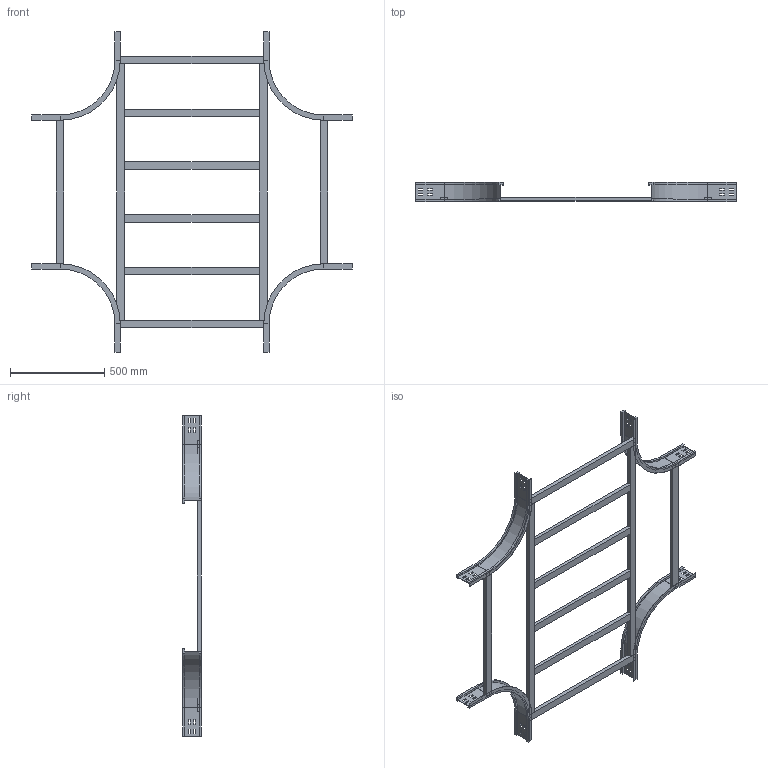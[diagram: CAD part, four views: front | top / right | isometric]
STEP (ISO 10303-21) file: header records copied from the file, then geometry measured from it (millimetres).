
FILE_DESCRIPTION (( 'STEP AP214' ), '1' );
FILE_NAME ('17S3D800.step', '2025-02-21T16:16:13', ( '' ), ( '' ), 'SwSTEP 2.0', 'SolidWorks 2023', '' );
FILE_SCHEMA (( 'AUTOMOTIVE_DESIGN' ));
Length unit declared in the file: millimetre
Products named in the file (5): TRAVERSINO_INTERMEDIO_X_R300+800; LONGH.INTERNO 90°_H100_R300; TRAVERSINO_LONG._R300+800; TRAVERSINO_800; 17S3D800
Assembly tree (14 placements, depth 2):
  17S3D800
    LONGH.INTERNO 90°_H100_R300  x4
    TRAVERSINO_800  x4
    TRAVERSINO_INTERMEDIO_X_R300+800  x4
    TRAVERSINO_LONG._R300+800  x2
Bounding box: 1700 x 100 x 1700 mm (x, y, z)
Volume: 8732084.2 mm3; surface area: 1989744.2 mm2
Topology: 14 solids, 14 shells, 340 faces, 840 edges, 528 vertices
Faces by surface type: plane 316, cylinder 24
Entity records: 2786 total; most frequent: CARTESIAN_POINT 457, DIRECTION 438, ORIENTED_EDGE 432, EDGE_CURVE 216, VECTOR 204, LINE 204, VERTEX_POINT 136, AXIS2_PLACEMENT_3D 117
